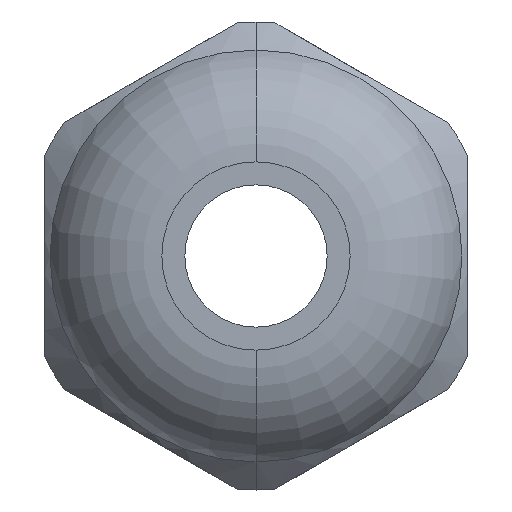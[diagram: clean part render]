
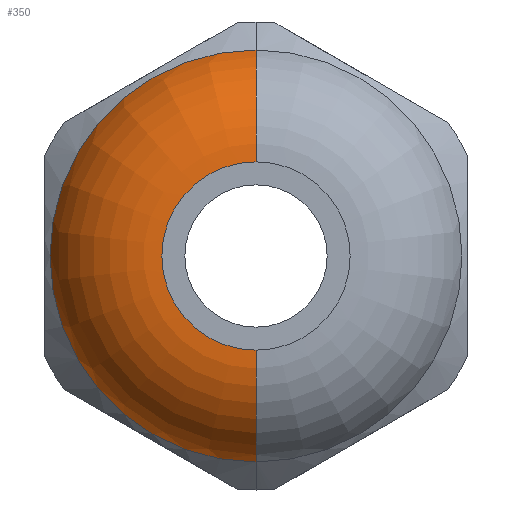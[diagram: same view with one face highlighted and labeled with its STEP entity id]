
A CAD part, left-side view. The second image highlights one B-rep face of the part: STEP entity #350.
In plain terms, the highlighted toroidal (fillet/blend) face has major radius 3.118 mm and minor radius 3.897 mm.
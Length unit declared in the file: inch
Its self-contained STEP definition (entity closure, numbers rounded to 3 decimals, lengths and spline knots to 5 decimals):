
#46 = ORIENTED_EDGE ( 'NONE', *, *, #53, .F. ) ;
#47 = VERTEX_POINT ( 'NONE', #1199 ) ;
#48 = ORIENTED_EDGE ( 'NONE', *, *, #118, .T. ) ;
#49 = EDGE_CURVE ( 'NONE', #47, #50, #1355, .T. ) ;
#50 = VERTEX_POINT ( 'NONE', #1198 ) ;
#52 = ORIENTED_EDGE ( 'NONE', *, *, #49, .F. ) ;
#53 = EDGE_CURVE ( 'NONE', #348, #47, #1368, .T. ) ;
#118 = EDGE_CURVE ( 'NONE', #372, #50, #1533, .T. ) ;
#335 = ORIENTED_EDGE ( 'NONE', *, *, #344, .T. ) ;
#341 = EDGE_LOOP ( 'NONE', ( #335, #48, #52, #46 ) ) ;
#344 = EDGE_CURVE ( 'NONE', #348, #372, #2384, .T. ) ;
#348 = VERTEX_POINT ( 'NONE', #2219 ) ;
#350 = ADVANCED_FACE ( 'NONE', ( #2372 ), #2268, .T. ) ;
#372 = VERTEX_POINT ( 'NONE', #2451 ) ;
#1198 = CARTESIAN_POINT ( 'NONE',  ( 0., 0., -0.12275 ) ) ;
#1199 = CARTESIAN_POINT ( 'NONE',  ( 0., 0., 0.12275 ) ) ;
#1229 = DIRECTION ( 'NONE',  ( -1., 0., 0. ) ) ;
#1230 = CARTESIAN_POINT ( 'NONE',  ( 0., 0., 0. ) ) ;
#1231 = AXIS2_PLACEMENT_3D ( 'NONE', #1230, #1229, #1369 ) ;
#1355 = CIRCLE ( 'NONE', #1231, 0.12275 ) ;
#1356 = AXIS2_PLACEMENT_3D ( 'NONE', #1374, #1373, #1372 ) ;
#1368 = CIRCLE ( 'NONE', #1356, 0.15344 ) ;
#1369 = DIRECTION ( 'NONE',  ( 0., 0., 1. ) ) ;
#1372 = DIRECTION ( 'NONE',  ( 0., 0., -1. ) ) ;
#1373 = DIRECTION ( 'NONE',  ( 0., -1., 0. ) ) ;
#1374 = CARTESIAN_POINT ( 'NONE',  ( 0.15344, 0., 0.12275 ) ) ;
#1380 = DIRECTION ( 'NONE',  ( 0., 0., 1. ) ) ;
#1387 = AXIS2_PLACEMENT_3D ( 'NONE', #1529, #1527, #1380 ) ;
#1527 = DIRECTION ( 'NONE',  ( 0., 1., 0. ) ) ;
#1529 = CARTESIAN_POINT ( 'NONE',  ( 0.15344, 0., -0.12275 ) ) ;
#1533 = CIRCLE ( 'NONE', #1387, 0.15344 ) ;
#2219 = CARTESIAN_POINT ( 'NONE',  ( 0.10548, 0., 0.2685 ) ) ;
#2252 = DIRECTION ( 'NONE',  ( 0., 0., 1. ) ) ;
#2268 = TOROIDAL_SURFACE ( 'NONE', #2385, 0.12275, 0.15344 ) ;
#2333 = CARTESIAN_POINT ( 'NONE',  ( 0.15344, 0., 0. ) ) ;
#2337 = DIRECTION ( 'NONE',  ( -1., 0., 0. ) ) ;
#2372 = FACE_OUTER_BOUND ( 'NONE', #341, .T. ) ;
#2377 = DIRECTION ( 'NONE',  ( 0., 0., 1. ) ) ;
#2378 = DIRECTION ( 'NONE',  ( -1., 0., 0. ) ) ;
#2379 = CARTESIAN_POINT ( 'NONE',  ( 0.10548, 0., 0. ) ) ;
#2380 = AXIS2_PLACEMENT_3D ( 'NONE', #2379, #2378, #2377 ) ;
#2384 = CIRCLE ( 'NONE', #2380, 0.2685 ) ;
#2385 = AXIS2_PLACEMENT_3D ( 'NONE', #2333, #2337, #2252 ) ;
#2451 = CARTESIAN_POINT ( 'NONE',  ( 0.10548, 0., -0.2685 ) ) ;
